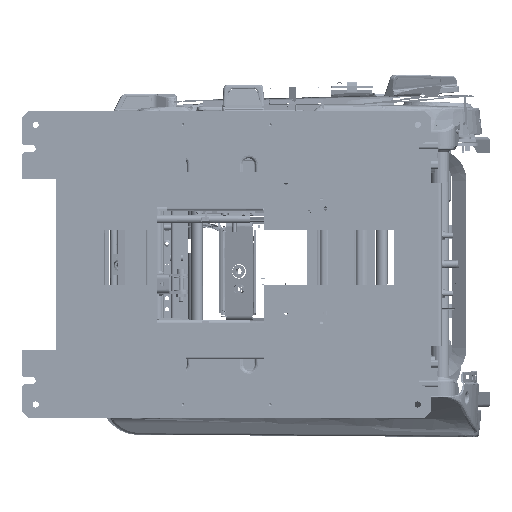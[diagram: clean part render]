
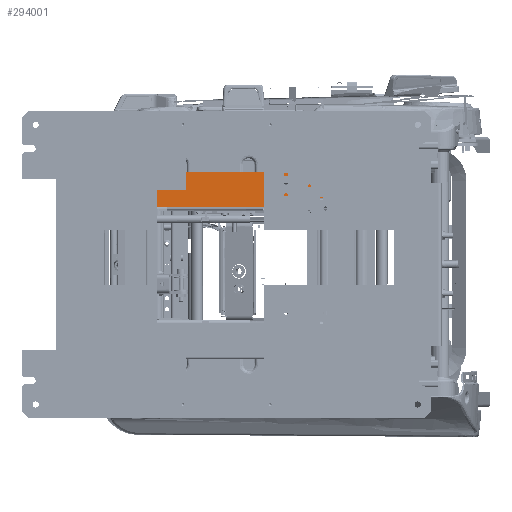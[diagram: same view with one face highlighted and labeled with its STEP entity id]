
A CAD part, front view. The second image highlights one B-rep face of the part: STEP entity #294001.
In plain terms, the highlighted planar face has unit normal (0, -1, 0) as drawn and (0, 0, -1) by its records, which use the part's own axes.
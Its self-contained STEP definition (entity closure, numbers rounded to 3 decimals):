
#292833=CARTESIAN_POINT('Vertex',(-537.579,-719.499,38.668)) ;
#292837=CARTESIAN_POINT('Control Point',(-537.579,-727.499,38.668)) ;
#292838=CARTESIAN_POINT('Control Point',(-536.951,-727.499,38.668)) ;
#292839=CARTESIAN_POINT('Control Point',(-536.323,-727.376,38.668)) ;
#292840=CARTESIAN_POINT('Control Point',(-535.727,-727.129,38.668)) ;
#292841=CARTESIAN_POINT('Control Point',(-534.664,-726.415,38.668)) ;
#292842=CARTESIAN_POINT('Control Point',(-533.949,-725.352,38.668)) ;
#292843=CARTESIAN_POINT('Control Point',(-533.703,-724.756,38.668)) ;
#292844=CARTESIAN_POINT('Control Point',(-533.456,-723.499,38.668)) ;
#292845=CARTESIAN_POINT('Control Point',(-533.703,-722.243,38.668)) ;
#292846=CARTESIAN_POINT('Control Point',(-533.949,-721.647,38.668)) ;
#292847=CARTESIAN_POINT('Control Point',(-534.664,-720.584,38.668)) ;
#292848=CARTESIAN_POINT('Control Point',(-535.727,-719.87,38.668)) ;
#292849=CARTESIAN_POINT('Control Point',(-536.323,-719.623,38.668)) ;
#292850=CARTESIAN_POINT('Control Point',(-536.951,-719.499,38.668)) ;
#292851=CARTESIAN_POINT('Control Point',(-537.579,-719.499,38.668)) ;
#292852=CARTESIAN_POINT('Vertex',(-537.579,-727.499,38.668)) ;
#292885=CARTESIAN_POINT('Vertex',(-237.579,-719.498,38.668)) ;
#292888=CARTESIAN_POINT('Axis2P3D Location',(-237.579,-723.498,38.668)) ;
#292892=CARTESIAN_POINT('Vertex',(-237.579,-727.498,38.668)) ;
#292976=CARTESIAN_POINT('Line Origine',(-220.825,-734.498,38.668)) ;
#292980=CARTESIAN_POINT('Vertex',(-220.825,-709.498,38.668)) ;
#292982=CARTESIAN_POINT('Vertex',(-220.825,-759.498,38.668)) ;
#293445=CARTESIAN_POINT('Vertex',(-554.334,-709.499,38.668)) ;
#293450=CARTESIAN_POINT('Line Origine',(-554.334,-734.499,38.668)) ;
#293454=CARTESIAN_POINT('Vertex',(-554.334,-759.499,38.668)) ;
#293832=CARTESIAN_POINT('Line Origine',(-387.579,-709.499,38.668)) ;
#293889=CARTESIAN_POINT('Line Origine',(-387.579,-759.499,38.668)) ;
#293944=CARTESIAN_POINT('Axis2P3D Location',(-237.579,-723.498,38.668)) ;
#293956=CARTESIAN_POINT('Axis2P3D Location',(-527.579,-759.499,38.668)) ;
#293968=CARTESIAN_POINT('Control Point',(-537.579,-719.499,38.668)) ;
#293969=CARTESIAN_POINT('Control Point',(-537.971,-719.499,38.668)) ;
#293970=CARTESIAN_POINT('Control Point',(-538.363,-719.547,38.668)) ;
#293971=CARTESIAN_POINT('Control Point',(-538.747,-719.643,38.668)) ;
#293972=CARTESIAN_POINT('Control Point',(-539.484,-719.928,38.668)) ;
#293973=CARTESIAN_POINT('Control Point',(-540.13,-720.381,38.668)) ;
#293974=CARTESIAN_POINT('Control Point',(-540.424,-720.646,38.668)) ;
#293975=CARTESIAN_POINT('Control Point',(-540.941,-721.244,38.668)) ;
#293976=CARTESIAN_POINT('Control Point',(-541.298,-721.948,38.668)) ;
#293977=CARTESIAN_POINT('Control Point',(-541.432,-722.321,38.668)) ;
#293978=CARTESIAN_POINT('Control Point',(-541.607,-723.091,38.668)) ;
#293979=CARTESIAN_POINT('Control Point',(-541.59,-723.88,38.668)) ;
#293980=CARTESIAN_POINT('Control Point',(-541.533,-724.272,38.668)) ;
#293981=CARTESIAN_POINT('Control Point',(-541.325,-725.034,38.668)) ;
#293982=CARTESIAN_POINT('Control Point',(-540.939,-725.723,38.668)) ;
#293983=CARTESIAN_POINT('Control Point',(-540.705,-726.042,38.668)) ;
#293984=CARTESIAN_POINT('Control Point',(-540.162,-726.616,38.668)) ;
#293985=CARTESIAN_POINT('Control Point',(-539.498,-727.042,38.668)) ;
#293986=CARTESIAN_POINT('Control Point',(-539.141,-727.213,38.668)) ;
#293987=CARTESIAN_POINT('Control Point',(-538.612,-727.391,38.668)) ;
#293988=CARTESIAN_POINT('Control Point',(-538.064,-727.475,38.668)) ;
#293989=CARTESIAN_POINT('Control Point',(-537.902,-727.491,38.668)) ;
#293990=CARTESIAN_POINT('Control Point',(-537.741,-727.499,38.668)) ;
#293991=CARTESIAN_POINT('Control Point',(-537.579,-727.499,38.668)) ;
#292889=DIRECTION('Axis2P3D Direction',(0.,0.,-1.)) ;
#292977=DIRECTION('Vector Direction',(0.,-1.,0.)) ;
#293451=DIRECTION('Vector Direction',(0.,1.,0.)) ;
#293833=DIRECTION('Vector Direction',(-1.,0.,0.)) ;
#293890=DIRECTION('Vector Direction',(-1.,0.,0.)) ;
#293945=DIRECTION('Axis2P3D Direction',(0.,0.,-1.)) ;
#293957=DIRECTION('Axis2P3D Direction',(0.,0.,-1.)) ;
#293958=DIRECTION('Axis2P3D XDirection',(0.,-1.,0.)) ;
#292890=AXIS2_PLACEMENT_3D('Circle Axis2P3D',#292888,#292889,$) ;
#293946=AXIS2_PLACEMENT_3D('Circle Axis2P3D',#293944,#293945,$) ;
#293959=AXIS2_PLACEMENT_3D('Plane Axis2P3D',#293956,#293957,#293958) ;
#293962=ORIENTED_EDGE('',*,*,#293893,.T.) ;
#293963=ORIENTED_EDGE('',*,*,#293456,.T.) ;
#293964=ORIENTED_EDGE('',*,*,#293836,.F.) ;
#293965=ORIENTED_EDGE('',*,*,#292984,.T.) ;
#293994=ORIENTED_EDGE('',*,*,#292854,.T.) ;
#293995=ORIENTED_EDGE('',*,*,#293992,.T.) ;
#293998=ORIENTED_EDGE('',*,*,#292894,.T.) ;
#293999=ORIENTED_EDGE('',*,*,#293948,.T.) ;
#293996=FACE_BOUND('',#293993,.T.) ;
#294000=FACE_BOUND('',#293997,.T.) ;
#292978=VECTOR('Line Direction',#292977,1.) ;
#293452=VECTOR('Line Direction',#293451,1.) ;
#293834=VECTOR('Line Direction',#293833,1.) ;
#293891=VECTOR('Line Direction',#293890,1.) ;
#294001=ADVANCED_FACE('NONE',(#293966,#293996,#294000),#293960,.T.) ;
#292836=B_SPLINE_CURVE_WITH_KNOTS('',5,(#292837,#292838,#292839,#292840,#292841,#292842,#292843,#292844,#292845,#292846,#292847,#292848,#292849,#292850,#292851),.UNSPECIFIED.,.F.,.U.,(6,3,3,3,6),(-6.283,-3.142,0.,3.142,6.283),.UNSPECIFIED.) ;
#293967=B_SPLINE_CURVE_WITH_KNOTS('',5,(#293968,#293969,#293970,#293971,#293972,#293973,#293974,#293975,#293976,#293977,#293978,#293979,#293980,#293981,#293982,#293983,#293984,#293985,#293986,#293987,#293988,#293989,#293990,#293991),.UNSPECIFIED.,.F.,.U.,(6,3,3,3,3,3,3,6),(0.,2.771,5.543,8.314,11.085,13.856,16.628,17.77),.UNSPECIFIED.) ;
#292891=CIRCLE('generated circle',#292890,4.) ;
#293947=CIRCLE('generated circle',#293946,4.) ;
#292854=EDGE_CURVE('',#292853,#292834,#292836,.T.) ;
#292894=EDGE_CURVE('',#292893,#292886,#292891,.F.) ;
#292984=EDGE_CURVE('',#292981,#292983,#292979,.T.) ;
#293456=EDGE_CURVE('',#293455,#293446,#293453,.T.) ;
#293836=EDGE_CURVE('',#292981,#293446,#293835,.T.) ;
#293893=EDGE_CURVE('',#292983,#293455,#293892,.T.) ;
#293948=EDGE_CURVE('',#292886,#292893,#293947,.F.) ;
#293992=EDGE_CURVE('',#292834,#292853,#293967,.T.) ;
#293961=EDGE_LOOP('',(#293962,#293963,#293964,#293965)) ;
#293993=EDGE_LOOP('',(#293994,#293995)) ;
#293997=EDGE_LOOP('',(#293998,#293999)) ;
#293966=FACE_OUTER_BOUND('',#293961,.T.) ;
#292979=LINE('Line',#292976,#292978) ;
#293453=LINE('Line',#293450,#293452) ;
#293835=LINE('Line',#293832,#293834) ;
#293892=LINE('Line',#293889,#293891) ;
#293960=PLANE('',#293959) ;
#292834=VERTEX_POINT('',#292833) ;
#292853=VERTEX_POINT('',#292852) ;
#292886=VERTEX_POINT('',#292885) ;
#292893=VERTEX_POINT('',#292892) ;
#292981=VERTEX_POINT('',#292980) ;
#292983=VERTEX_POINT('',#292982) ;
#293446=VERTEX_POINT('',#293445) ;
#293455=VERTEX_POINT('',#293454) ;
